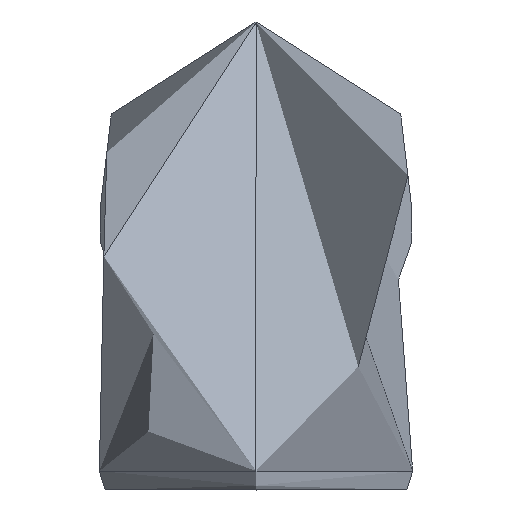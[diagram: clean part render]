
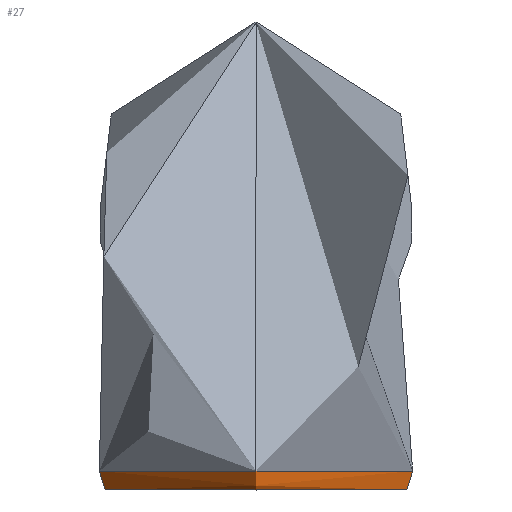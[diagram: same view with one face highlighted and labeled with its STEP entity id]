
A CAD part, front view. The second image highlights one B-rep face of the part: STEP entity #27.
In plain terms, the highlighted free-form (B-spline) face has degree [3, 2] with [4, 9] control points.
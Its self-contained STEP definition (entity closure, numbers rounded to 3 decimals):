
#27=ADVANCED_FACE('',(#35),#115,.T.);
#35=FACE_OUTER_BOUND('',#43,.T.);
#43=EDGE_LOOP('',(#58,#59,#60,#61,#62,#63));
#58=ORIENTED_EDGE('',*,*,#88,.T.);
#59=ORIENTED_EDGE('',*,*,#87,.T.);
#60=ORIENTED_EDGE('',*,*,#77,.T.);
#61=ORIENTED_EDGE('',*,*,#86,.F.);
#62=ORIENTED_EDGE('',*,*,#85,.F.);
#63=ORIENTED_EDGE('',*,*,#79,.T.);
#77=EDGE_CURVE('',#106,#104,#90,.T.);
#79=EDGE_CURVE('',#105,#107,#91,.T.);
#85=EDGE_CURVE('',#105,#110,#99,.T.);
#86=EDGE_CURVE('',#110,#104,#100,.T.);
#87=EDGE_CURVE('',#111,#106,#101,.T.);
#88=EDGE_CURVE('',#107,#111,#102,.T.);
#90=B_SPLINE_CURVE_WITH_KNOTS('',3,(#1311,#1312,#1313,#1314),
 .UNSPECIFIED.,.F.,.F.,(4,4),(-3.477,0.),.UNSPECIFIED.);
#91=B_SPLINE_CURVE_WITH_KNOTS('',3,(#1320,#1321,#1322,#1323),
 .UNSPECIFIED.,.F.,.F.,(4,4),(-3.477,0.),.UNSPECIFIED.);
#99=(
BOUNDED_CURVE()
B_SPLINE_CURVE(2,(#1453,#1454,#1455),.UNSPECIFIED.,.F.,.F.)
B_SPLINE_CURVE_WITH_KNOTS((3,3),(0.,48.362),.UNSPECIFIED.)
CURVE()
GEOMETRIC_REPRESENTATION_ITEM()
RATIONAL_B_SPLINE_CURVE((1.,0.707,1.))
REPRESENTATION_ITEM('')
);
#100=(
BOUNDED_CURVE()
B_SPLINE_CURVE(2,(#1456,#1457,#1458),.UNSPECIFIED.,.F.,.F.)
B_SPLINE_CURVE_WITH_KNOTS((3,3),(48.362,96.724),
 .UNSPECIFIED.)
CURVE()
GEOMETRIC_REPRESENTATION_ITEM()
RATIONAL_B_SPLINE_CURVE((1.,0.707,1.))
REPRESENTATION_ITEM('')
);
#101=(
BOUNDED_CURVE()
B_SPLINE_CURVE(2,(#1459,#1460,#1461),.UNSPECIFIED.,.F.,.F.)
B_SPLINE_CURVE_WITH_KNOTS((3,3),(-50.203,0.),.UNSPECIFIED.)
CURVE()
GEOMETRIC_REPRESENTATION_ITEM()
RATIONAL_B_SPLINE_CURVE((1.,0.707,1.))
REPRESENTATION_ITEM('')
);
#102=(
BOUNDED_CURVE()
B_SPLINE_CURVE(2,(#1462,#1463,#1464),.UNSPECIFIED.,.F.,.F.)
B_SPLINE_CURVE_WITH_KNOTS((3,3),(-100.406,-50.203),
 .UNSPECIFIED.)
CURVE()
GEOMETRIC_REPRESENTATION_ITEM()
RATIONAL_B_SPLINE_CURVE((1.,0.707,1.))
REPRESENTATION_ITEM('')
);
#104=VERTEX_POINT('',#1298);
#105=VERTEX_POINT('',#1299);
#106=VERTEX_POINT('',#1300);
#107=VERTEX_POINT('',#1301);
#110=VERTEX_POINT('',#1304);
#111=VERTEX_POINT('',#1305);
#115=(
BOUNDED_SURFACE()
B_SPLINE_SURFACE(3,2,((#542,#543,#544,#545,#546,#547,#548,#549,#550),(#551,
#552,#553,#554,#555,#556,#557,#558,#559),(#560,#561,#562,#563,#564,#565,
#566,#567,#568),(#569,#570,#571,#572,#573,#574,#575,#576,#577)),
 .UNSPECIFIED.,.F.,.F.,.F.)
B_SPLINE_SURFACE_WITH_KNOTS((4,4),(3,2,2,2,3),(0.,1.),
(0.,38.927,77.854,116.781,155.708),
 .UNSPECIFIED.)
GEOMETRIC_REPRESENTATION_ITEM()
RATIONAL_B_SPLINE_SURFACE(((1.,0.707,1.,0.707,1.,
0.707,1.,0.707,1.),(1.,0.707,1.,0.707,
1.,0.707,1.,0.707,1.),(1.,0.707,1.,
0.707,1.,0.707,1.,0.707,1.),(1.,0.707,
1.,0.707,1.,0.707,1.,0.707,1.)))
REPRESENTATION_ITEM('')
SURFACE()
);
#542=CARTESIAN_POINT('',(0.,24.181,-0.012));
#543=CARTESIAN_POINT('',(24.181,24.181,-0.012));
#544=CARTESIAN_POINT('',(24.181,0.,-0.012));
#545=CARTESIAN_POINT('',(24.181,-24.181,-0.012));
#546=CARTESIAN_POINT('',(0.,-24.181,-0.012));
#547=CARTESIAN_POINT('',(-24.181,-24.181,-0.012));
#548=CARTESIAN_POINT('',(-24.181,0.,-0.012));
#549=CARTESIAN_POINT('',(-24.181,24.181,-0.012));
#550=CARTESIAN_POINT('',(0.,24.181,-0.012));
#551=CARTESIAN_POINT('',(0.,24.929,0.522));
#552=CARTESIAN_POINT('',(24.929,24.929,0.522));
#553=CARTESIAN_POINT('',(24.929,0.,0.522));
#554=CARTESIAN_POINT('',(24.929,-24.929,0.522));
#555=CARTESIAN_POINT('',(0.,-24.929,0.522));
#556=CARTESIAN_POINT('',(-24.929,-24.929,0.522));
#557=CARTESIAN_POINT('',(-24.929,0.,0.522));
#558=CARTESIAN_POINT('',(-24.929,24.929,0.522));
#559=CARTESIAN_POINT('',(0.,24.929,0.522));
#560=CARTESIAN_POINT('',(0.,25.236,1.535));
#561=CARTESIAN_POINT('',(25.236,25.236,1.535));
#562=CARTESIAN_POINT('',(25.236,0.,1.535));
#563=CARTESIAN_POINT('',(25.236,-25.236,1.535));
#564=CARTESIAN_POINT('',(0.,-25.236,1.535));
#565=CARTESIAN_POINT('',(-25.236,-25.236,1.535));
#566=CARTESIAN_POINT('',(-25.236,0.,1.535));
#567=CARTESIAN_POINT('',(-25.236,25.236,1.535));
#568=CARTESIAN_POINT('',(0.,25.236,1.535));
#569=CARTESIAN_POINT('',(0.,25.101,3.028));
#570=CARTESIAN_POINT('',(25.101,25.101,3.028));
#571=CARTESIAN_POINT('',(25.101,0.,3.028));
#572=CARTESIAN_POINT('',(25.101,-25.101,3.028));
#573=CARTESIAN_POINT('',(0.,-25.101,3.028));
#574=CARTESIAN_POINT('',(-25.101,-25.101,3.028));
#575=CARTESIAN_POINT('',(-25.101,0.,3.028));
#576=CARTESIAN_POINT('',(-25.101,25.101,3.028));
#577=CARTESIAN_POINT('',(0.,25.101,3.028));
#1298=CARTESIAN_POINT('',(-24.181,0.,-0.012));
#1299=CARTESIAN_POINT('',(24.181,0.,-0.012));
#1300=CARTESIAN_POINT('',(-25.101,0.,3.028));
#1301=CARTESIAN_POINT('',(25.101,0.,3.028));
#1304=CARTESIAN_POINT('',(0.,-24.181,-0.012));
#1305=CARTESIAN_POINT('',(0.,-25.101,3.028));
#1311=CARTESIAN_POINT('',(-25.101,0.,3.028));
#1312=CARTESIAN_POINT('',(-25.236,0.,1.535));
#1313=CARTESIAN_POINT('',(-24.929,0.,0.522));
#1314=CARTESIAN_POINT('',(-24.181,0.,-0.012));
#1320=CARTESIAN_POINT('',(24.181,0.,-0.012));
#1321=CARTESIAN_POINT('',(24.929,0.,0.522));
#1322=CARTESIAN_POINT('',(25.236,0.,1.535));
#1323=CARTESIAN_POINT('',(25.101,0.,3.028));
#1453=CARTESIAN_POINT('',(24.181,0.,-0.012));
#1454=CARTESIAN_POINT('',(24.181,-24.181,-0.012));
#1455=CARTESIAN_POINT('',(0.,-24.181,-0.012));
#1456=CARTESIAN_POINT('',(0.,-24.181,-0.012));
#1457=CARTESIAN_POINT('',(-24.181,-24.181,-0.012));
#1458=CARTESIAN_POINT('',(-24.181,0.,-0.012));
#1459=CARTESIAN_POINT('',(0.,-25.101,3.028));
#1460=CARTESIAN_POINT('',(-25.101,-25.101,3.028));
#1461=CARTESIAN_POINT('',(-25.101,0.,3.028));
#1462=CARTESIAN_POINT('',(25.101,0.,3.028));
#1463=CARTESIAN_POINT('',(25.101,-25.101,3.028));
#1464=CARTESIAN_POINT('',(0.,-25.101,3.028));
